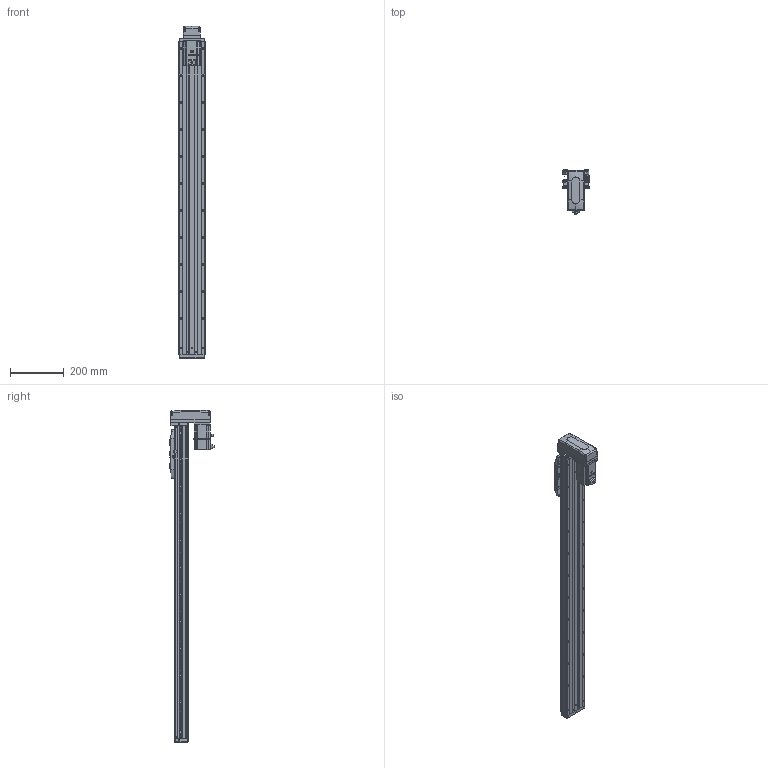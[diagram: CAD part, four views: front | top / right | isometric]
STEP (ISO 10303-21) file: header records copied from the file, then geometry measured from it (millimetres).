
FILE_DESCRIPTION (( 'STEP AP203' ), '1' );
FILE_NAME ('CTHA100-950-BM-M20-C4L.step', '2022-07-06T09:05:58', ( '微软用户' ), ( '微软中国' ), 'SwSTEP 2.0', 'SolidWorks 2020', '' );
FILE_SCHEMA (( 'CONFIG_CONTROL_DESIGN' ));
Length unit declared in the file: millimetre
Products named in the file (19): GBT 70.1-M3℅6; CTHA86-015-1_CTHA86-015-2; KTHA100-005; GBT70.1 M5℅16; CTHA86-033; GB¨uT 70.2-M3¡Á5_M3¡Á6; CTHA60-016; CTHA100-950-BM-M20-C4L; EE_SX911P_R; _X2_4E0983F1_X0_200W_1; CTHA60-017; CTHA100-002; CTHA60-021; CTHA86-030; CTHA100-031; KTHA100-001_1160; GBT77-2000 M3×3; GBT 70.3-M3℅6; KTHA100-004
Assembly tree (64 placements, depth 2):
  CTHA100-950-BM-M20-C4L
    KTHA100-001_1160
    KTHA100-004
    KTHA100-005
    GB¨uT 70.2-M3¡Á5_M3¡Á6  x10
    EE_SX911P_R  x3
    CTHA60-017  x3
    CTHA60-021  x2
    GBT77-2000 M3×3  x6
    GBT 70.1-M3℅6  x10
    GBT70.1 M5℅16  x14
    CTHA60-016  x2
    _X2_4E0983F1_X0_200W_1
    CTHA100-002
    CTHA100-031
    CTHA86-030  x2
    GBT 70.3-M3℅6  x4
    CTHA86-015-1_CTHA86-015-2
    CTHA86-033
Bounding box: 98.82 x 163.2 x 1231 mm (x, y, z)
Volume: 4914914.5 mm3; surface area: 813227.7 mm2
Topology: 66 solids, 66 shells, 2749 faces, 6639 edges, 4120 vertices
Faces by surface type: plane 1440, cylinder 725, cone 361, torus 124, bspline 75, sphere 24
Entity records: 48576 total; most frequent: CARTESIAN_POINT 9483, DIRECTION 7534, ORIENTED_EDGE 7394, EDGE_CURVE 3697, AXIS2_PLACEMENT_3D 2543, LINE 2448, VECTOR 2448, VERTEX_POINT 2340
